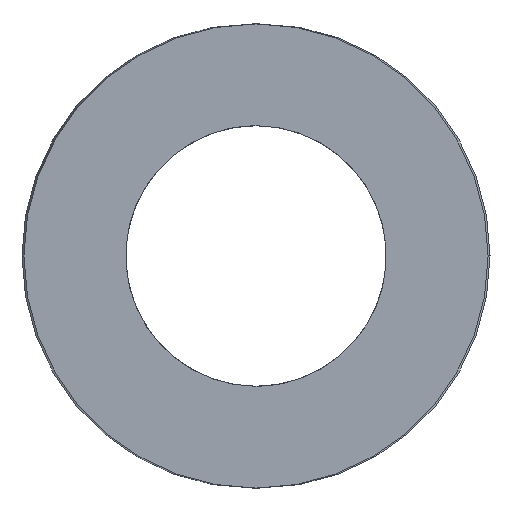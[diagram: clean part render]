
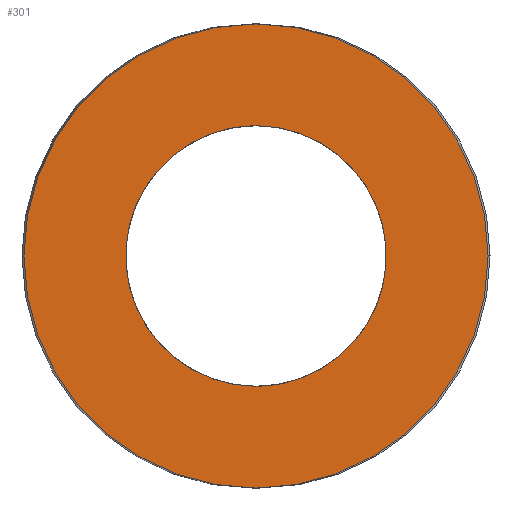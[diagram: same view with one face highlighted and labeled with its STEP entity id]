
A CAD part, left-side view. The second image highlights one B-rep face of the part: STEP entity #301.
In plain terms, the highlighted planar face has unit normal (-1, 0, 0).
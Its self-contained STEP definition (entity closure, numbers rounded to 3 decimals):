
#63=CARTESIAN_POINT('Vertex',(0.,15.5,0.)) ;
#77=CARTESIAN_POINT('Vertex',(0.,-15.5,0.)) ;
#80=CARTESIAN_POINT('Axis2P3D Location',(0.,0.,0.)) ;
#97=CARTESIAN_POINT('Axis2P3D Location',(0.,0.,0.)) ;
#232=CARTESIAN_POINT('Axis2P3D Location',(0.,7.75,0.)) ;
#242=CARTESIAN_POINT('Control Point',(0.,0.,-8.7)) ;
#243=CARTESIAN_POINT('Control Point',(0.,0.867,-8.7)) ;
#244=CARTESIAN_POINT('Control Point',(0.,1.734,-8.592)) ;
#245=CARTESIAN_POINT('Control Point',(0.,2.583,-8.376)) ;
#246=CARTESIAN_POINT('Control Point',(0.,4.209,-7.737)) ;
#247=CARTESIAN_POINT('Control Point',(0.,5.629,-6.719)) ;
#248=CARTESIAN_POINT('Control Point',(0.,6.272,-6.123)) ;
#249=CARTESIAN_POINT('Control Point',(0.,7.395,-4.785)) ;
#250=CARTESIAN_POINT('Control Point',(0.,8.156,-3.211)) ;
#251=CARTESIAN_POINT('Control Point',(0.,8.436,-2.381)) ;
#252=CARTESIAN_POINT('Control Point',(0.,8.783,-0.669)) ;
#253=CARTESIAN_POINT('Control Point',(0.,8.699,1.077)) ;
#254=CARTESIAN_POINT('Control Point',(0.,8.548,1.94)) ;
#255=CARTESIAN_POINT('Control Point',(0.,8.034,3.61)) ;
#256=CARTESIAN_POINT('Control Point',(0.,7.127,5.103)) ;
#257=CARTESIAN_POINT('Control Point',(0.,6.581,5.789)) ;
#258=CARTESIAN_POINT('Control Point',(0.,5.332,7.011)) ;
#259=CARTESIAN_POINT('Control Point',(0.,3.821,7.888)) ;
#260=CARTESIAN_POINT('Control Point',(0.,3.015,8.231)) ;
#261=CARTESIAN_POINT('Control Point',(0.,1.918,8.541)) ;
#262=CARTESIAN_POINT('Control Point',(0.,0.793,8.67)) ;
#263=CARTESIAN_POINT('Control Point',(0.,0.529,8.69)) ;
#264=CARTESIAN_POINT('Control Point',(0.,0.264,8.7)) ;
#265=CARTESIAN_POINT('Control Point',(0.,0.,8.7)) ;
#266=CARTESIAN_POINT('Vertex',(0.,0.,-8.7)) ;
#268=CARTESIAN_POINT('Vertex',(0.,0.,8.7)) ;
#272=CARTESIAN_POINT('Control Point',(0.,0.,8.7)) ;
#273=CARTESIAN_POINT('Control Point',(0.,-0.867,8.7)) ;
#274=CARTESIAN_POINT('Control Point',(0.,-1.734,8.592)) ;
#275=CARTESIAN_POINT('Control Point',(0.,-2.583,8.376)) ;
#276=CARTESIAN_POINT('Control Point',(0.,-4.209,7.737)) ;
#277=CARTESIAN_POINT('Control Point',(0.,-5.629,6.719)) ;
#278=CARTESIAN_POINT('Control Point',(0.,-6.272,6.123)) ;
#279=CARTESIAN_POINT('Control Point',(0.,-7.395,4.785)) ;
#280=CARTESIAN_POINT('Control Point',(0.,-8.156,3.211)) ;
#281=CARTESIAN_POINT('Control Point',(0.,-8.436,2.381)) ;
#282=CARTESIAN_POINT('Control Point',(0.,-8.783,0.669)) ;
#283=CARTESIAN_POINT('Control Point',(0.,-8.699,-1.077)) ;
#284=CARTESIAN_POINT('Control Point',(0.,-8.548,-1.94)) ;
#285=CARTESIAN_POINT('Control Point',(0.,-8.034,-3.61)) ;
#286=CARTESIAN_POINT('Control Point',(0.,-7.127,-5.103)) ;
#287=CARTESIAN_POINT('Control Point',(0.,-6.581,-5.789)) ;
#288=CARTESIAN_POINT('Control Point',(0.,-5.332,-7.011)) ;
#289=CARTESIAN_POINT('Control Point',(0.,-3.821,-7.888)) ;
#290=CARTESIAN_POINT('Control Point',(0.,-3.015,-8.231)) ;
#291=CARTESIAN_POINT('Control Point',(0.,-1.918,-8.541)) ;
#292=CARTESIAN_POINT('Control Point',(0.,-0.793,-8.67)) ;
#293=CARTESIAN_POINT('Control Point',(0.,-0.529,-8.69)) ;
#294=CARTESIAN_POINT('Control Point',(0.,-0.264,-8.7)) ;
#295=CARTESIAN_POINT('Control Point',(0.,0.,-8.7)) ;
#81=DIRECTION('Axis2P3D Direction',(1.,-0.,0.)) ;
#98=DIRECTION('Axis2P3D Direction',(1.,-0.,0.)) ;
#233=DIRECTION('Axis2P3D Direction',(-1.,0.,0.)) ;
#234=DIRECTION('Axis2P3D XDirection',(0.,1.,0.)) ;
#82=AXIS2_PLACEMENT_3D('Circle Axis2P3D',#80,#81,$) ;
#99=AXIS2_PLACEMENT_3D('Circle Axis2P3D',#97,#98,$) ;
#235=AXIS2_PLACEMENT_3D('Plane Axis2P3D',#232,#233,#234) ;
#238=ORIENTED_EDGE('',*,*,#84,.T.) ;
#239=ORIENTED_EDGE('',*,*,#101,.T.) ;
#298=ORIENTED_EDGE('',*,*,#270,.T.) ;
#299=ORIENTED_EDGE('',*,*,#296,.T.) ;
#300=FACE_BOUND('',#297,.T.) ;
#301=ADVANCED_FACE('392-B32-064',(#240,#300),#236,.T.) ;
#241=B_SPLINE_CURVE_WITH_KNOTS('',5,(#242,#243,#244,#245,#246,#247,#248,#249,#250,#251,#252,#253,#254,#255,#256,#257,#258,#259,#260,#261,#262,#263,#264,#265),.UNSPECIFIED.,.F.,.U.,(6,3,3,3,3,3,3,6),(0.,6.131,12.261,18.392,24.522,30.653,36.783,38.652),.UNSPECIFIED.) ;
#271=B_SPLINE_CURVE_WITH_KNOTS('',5,(#272,#273,#274,#275,#276,#277,#278,#279,#280,#281,#282,#283,#284,#285,#286,#287,#288,#289,#290,#291,#292,#293,#294,#295),.UNSPECIFIED.,.F.,.U.,(6,3,3,3,3,3,3,6),(0.,6.131,12.261,18.392,24.522,30.653,36.783,38.652),.UNSPECIFIED.) ;
#83=CIRCLE('generated circle',#82,15.5) ;
#100=CIRCLE('generated circle',#99,15.5) ;
#84=EDGE_CURVE('',#64,#78,#83,.F.) ;
#101=EDGE_CURVE('',#78,#64,#100,.F.) ;
#270=EDGE_CURVE('',#267,#269,#241,.T.) ;
#296=EDGE_CURVE('',#269,#267,#271,.T.) ;
#237=EDGE_LOOP('',(#238,#239)) ;
#297=EDGE_LOOP('',(#298,#299)) ;
#240=FACE_OUTER_BOUND('',#237,.T.) ;
#236=PLANE('Plane',#235) ;
#64=VERTEX_POINT('',#63) ;
#78=VERTEX_POINT('',#77) ;
#267=VERTEX_POINT('',#266) ;
#269=VERTEX_POINT('',#268) ;
